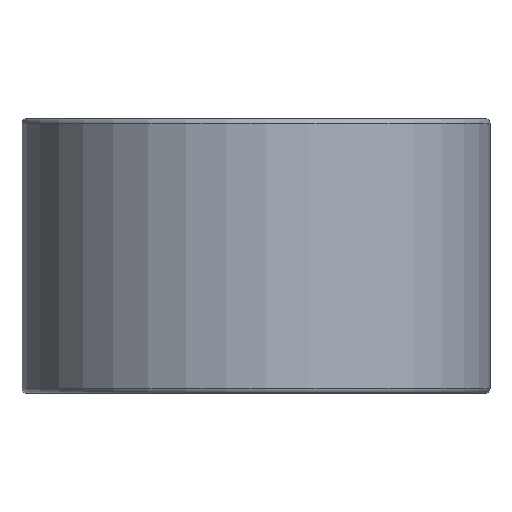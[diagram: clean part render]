
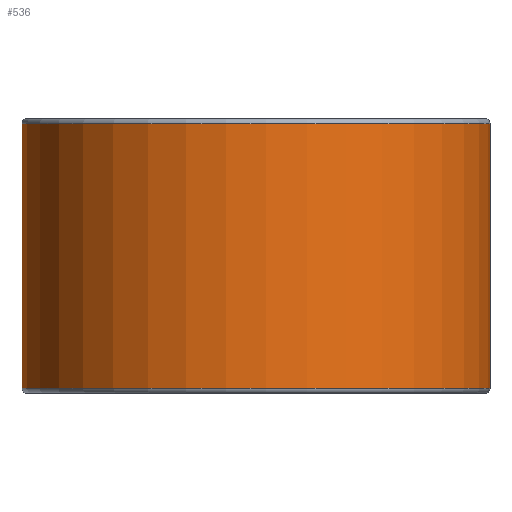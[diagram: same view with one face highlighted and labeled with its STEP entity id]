
A CAD part, front view. The second image highlights one B-rep face of the part: STEP entity #536.
In plain terms, the highlighted cylindrical face has radius 23 mm (diameter 46 mm), a full revolution.
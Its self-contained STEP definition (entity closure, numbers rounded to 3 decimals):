
#536=ADVANCED_FACE('',(#633,#634),#608,.T.);
#608=CYLINDRICAL_SURFACE('',#1367,23.);
#633=FACE_BOUND('',#705,.T.);
#634=FACE_BOUND('',#706,.T.);
#705=EDGE_LOOP('',(#817));
#706=EDGE_LOOP('',(#818));
#817=ORIENTED_EDGE('',*,*,#1169,.T.);
#818=ORIENTED_EDGE('',*,*,#1170,.T.);
#1073=VERTEX_POINT('',#1853);
#1074=VERTEX_POINT('',#1855);
#1169=EDGE_CURVE('',#1073,#1073,#1297,.T.);
#1170=EDGE_CURVE('',#1074,#1074,#1298,.T.);
#1297=CIRCLE('',#1365,23.);
#1298=CIRCLE('',#1366,23.);
#1365=AXIS2_PLACEMENT_3D('',#1852,#1514,#1515);
#1366=AXIS2_PLACEMENT_3D('',#1854,#1516,#1517);
#1367=AXIS2_PLACEMENT_3D('',#1856,#1518,#1519);
#1514=DIRECTION('',(0.,0.,-1.));
#1515=DIRECTION('',(1.,0.,0.));
#1516=DIRECTION('',(0.,0.,1.));
#1517=DIRECTION('',(1.,0.,0.));
#1518=DIRECTION('',(0.,0.,-1.));
#1519=DIRECTION('',(-1.,0.,0.));
#1852=CARTESIAN_POINT('',(0.,0.,26.5));
#1853=CARTESIAN_POINT('',(23.,0.,26.5));
#1854=CARTESIAN_POINT('',(0.,0.,0.5));
#1855=CARTESIAN_POINT('',(23.,0.,0.5));
#1856=CARTESIAN_POINT('',(0.,0.,27.));
